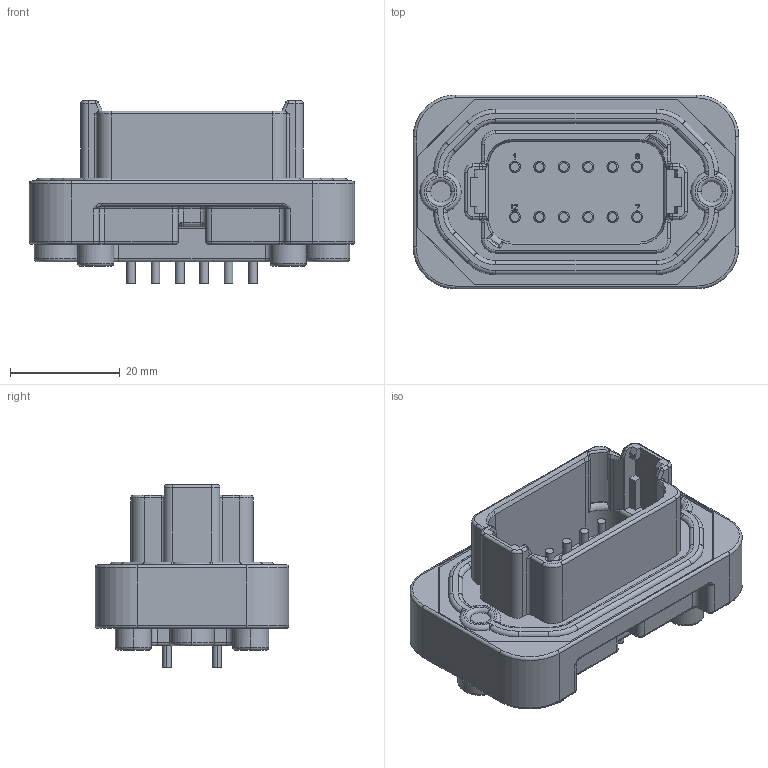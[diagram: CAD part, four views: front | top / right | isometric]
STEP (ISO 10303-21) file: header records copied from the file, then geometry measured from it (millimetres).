
FILE_DESCRIPTION((''),'2;1');
FILE_NAME('C-DT15-12PC-G003','2013-03-22T',('workeradm'),('Tyco Electronics Ltd.'),'PRO/ENGINEER BY PARAMETRIC TECHNOLOGY CORPORATION, 2010430','PRO/ENGINEER BY PARAMETRIC TECHNOLOGY CORPORATION, 2010430','');
FILE_SCHEMA(('AUTOMOTIVE_DESIGN { 1 0 10303 214 1 1 1 1 }'));
Length unit declared in the file: millimetre
Products named in the file (1): C-DT15-12PC-G003
Bounding box: 59.21 x 35.26 x 33.22 mm (x, y, z)
Volume: 23924.1 mm3; surface area: 11464.4 mm2
Topology: 1 solids, 1 shells, 674 faces, 1671 edges, 1044 vertices
Faces by surface type: plane 294, cylinder 218, torus 89, cone 54, bspline 15, sphere 4
Entity records: 21617 total; most frequent: CARTESIAN_POINT 5153, DIRECTION 3469, ORIENTED_EDGE 3342, EDGE_CURVE 1671, AXIS2_PLACEMENT_3D 1250, VERTEX_POINT 1044, VECTOR 969, LINE 969
